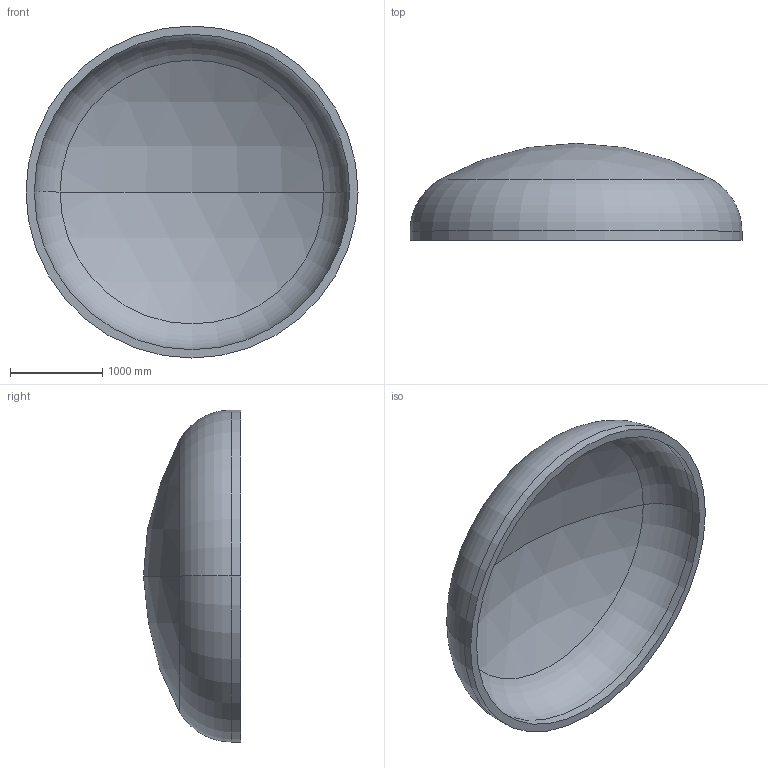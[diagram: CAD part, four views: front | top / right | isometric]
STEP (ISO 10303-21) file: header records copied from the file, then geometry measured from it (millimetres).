
FILE_DESCRIPTION (( 'STEP AP203' ), '1' );
FILE_NAME ('DIN 28013 Korbbogenform_-_Boden DIN 28013 - 3600 x 100 - I - s=90.step', '2016-07-01T20:45:33', ( '' ), ( '' ), 'SwSTEP 2.0', 'SolidWorks 2013', '' );
FILE_SCHEMA (( 'CONFIG_CONTROL_DESIGN' ));
Length unit declared in the file: millimetre
Products named in the file (1): DIN 28013 Korbbogenform_-_Boden DIN 28013 - 3600 x 100 - I - s=90
Bounding box: 3600 x 1052.18 x 3600 mm (x, y, z)
Volume: 1327348679.2 mm3; surface area: 30506020.9 mm2
Topology: 1 solids, 1 shells, 13 faces, 24 edges, 14 vertices
Faces by surface type: torus 4, cylinder 4, sphere 4, plane 1
Entity records: 407 total; most frequent: DIRECTION 72, CARTESIAN_POINT 52, ORIENTED_EDGE 48, AXIS2_PLACEMENT_3D 34, EDGE_CURVE 24, CIRCLE 20, VERTEX_POINT 14, EDGE_LOOP 14
